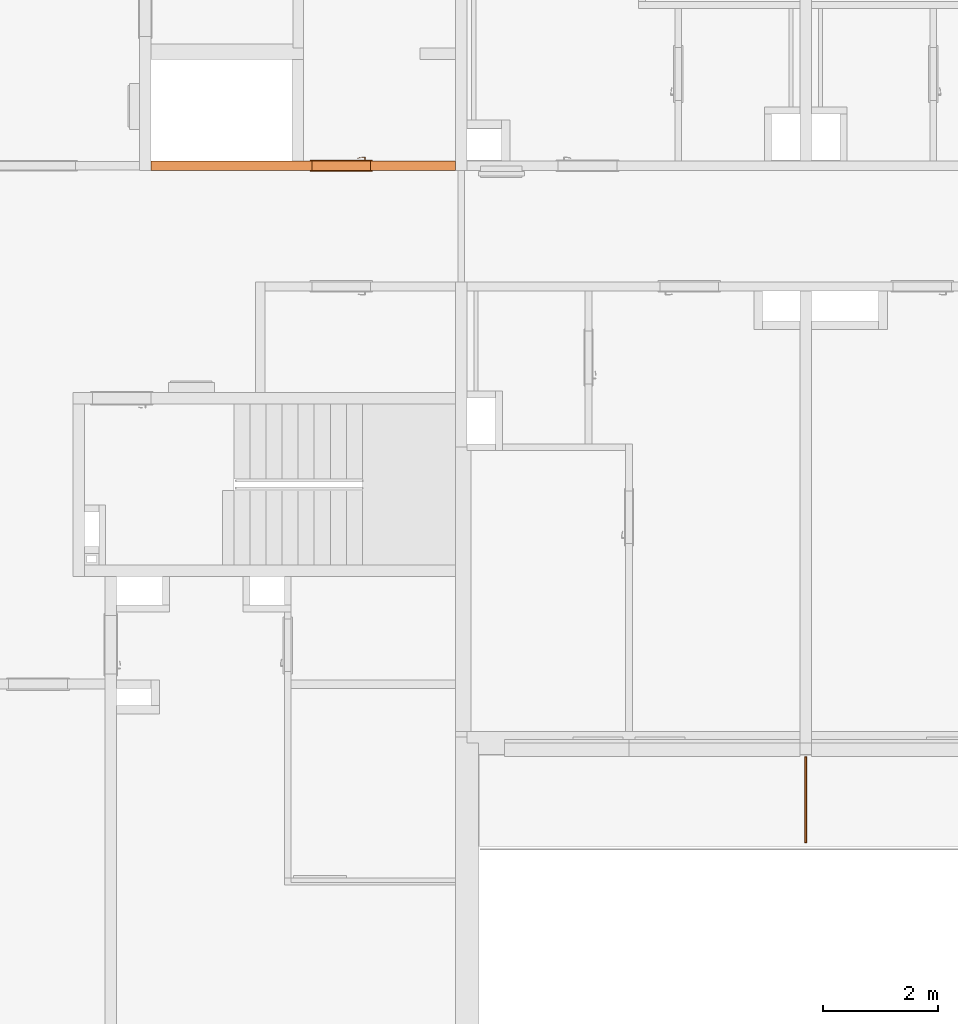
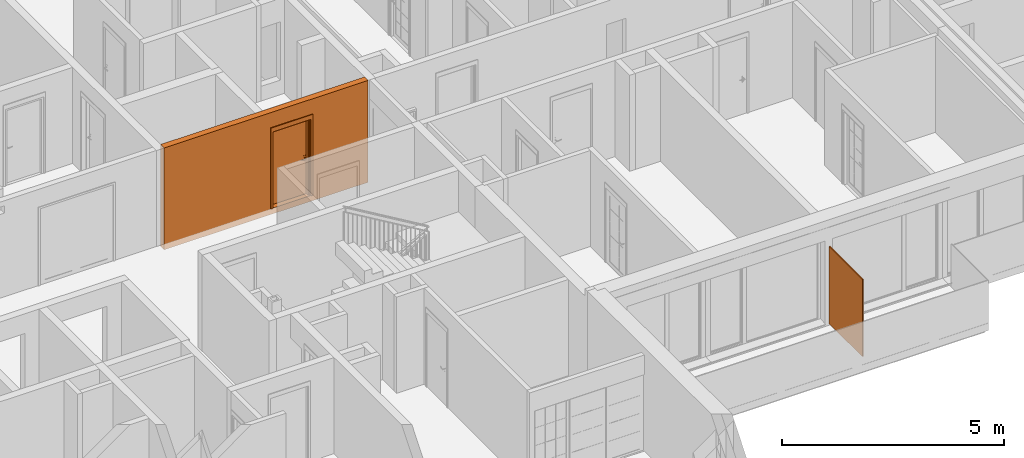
# One storey, part 19 of 66: 3 proxies, 1 opening.
"""IFC2X3 building model written with IfcOpenShell, lengths in millimetres."""

from ifc_helpers import new_model, entity, si_unit, converted_unit, derived_unit, money_unit, direction, frame, origin_with_axes, origin_2d_with_axis, place, context, subcontext, project, spatial, polyline, rectangle, outline, extrude, open_shell, faceted_brep, surface_model, source, transform, mapped, material, type_object, element, fill, save


model = new_model("IFC2X3")

# Units and contexts
model_context = context("Model", 3, precision=0.01, world=origin_with_axes(), true_north=direction((0.34421633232, 0.938890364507)))
body_context = subcontext(model_context, "Body", "Model", "MODEL_VIEW")
ifc_project = project(units=[si_unit("LENGTHUNIT", "METRE", prefix="MILLI"), si_unit("AREAUNIT", "SQUARE_METRE"), si_unit("VOLUMEUNIT", "CUBIC_METRE"), converted_unit("PLANEANGLEUNIT", "DEGREE", entity("IfcPlaneAngleMeasure", 0.0174532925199), si_unit("PLANEANGLEUNIT", "RADIAN"), dimensions=[0, 0, 0, 0, 0, 0, 0]), si_unit("SOLIDANGLEUNIT", "STERADIAN"), money_unit("USD"), converted_unit("TIMEUNIT", "Year", entity("IfcTimeMeasure", 31556926.0), si_unit("TIMEUNIT", "SECOND"), dimensions=[0, 0, 1, 0, 0, 0, 0]), si_unit("MASSUNIT", "GRAM", prefix="KILO"), si_unit("THERMODYNAMICTEMPERATUREUNIT", "DEGREE_CELSIUS"), si_unit("LUMINOUSINTENSITYUNIT", "LUMEN"), si_unit("ENERGYUNIT", "JOULE", prefix="MEGA"), derived_unit("THERMALCONDUCTANCEUNIT", [(si_unit("POWERUNIT", "WATT"), 1), (si_unit("LENGTHUNIT", "METRE"), -1), (si_unit("THERMODYNAMICTEMPERATUREUNIT", "KELVIN"), -1)]), derived_unit("SPECIFICHEATCAPACITYUNIT", [(si_unit("ENERGYUNIT", "JOULE"), 1), (si_unit("MASSUNIT", "GRAM", prefix="KILO"), -1), (si_unit("THERMODYNAMICTEMPERATUREUNIT", "KELVIN"), -1)]), derived_unit("MASSDENSITYUNIT", [(si_unit("MASSUNIT", "GRAM", prefix="KILO"), 1), (si_unit("VOLUMEUNIT", "CUBIC_METRE"), -1)])], contexts=[model_context])

# Site, building, storey
site_placement = place(None, origin_with_axes())
site = spatial("IfcSite", under=ifc_project, at=site_placement, Name="USTRONIE MORSKIE", CompositionType="ELEMENT")
building_placement = place(site_placement, origin_with_axes())
building = spatial("IfcBuilding", under=site, at=building_placement, Name="Budynek", CompositionType="ELEMENT")
storey_placement = place(building_placement, frame((0.0, 0.0, 10000.0), z_axis=(0.0, 0.0, 1.0), x_axis=(1.0, 0.0, 0.0)))
storey = spatial("IfcBuildingStorey", under=building, at=storey_placement, Name="PIĘTRO 3", CompositionType="ELEMENT", Elevation=10000.0)

# Proxies, opening
ifc_material_1 = material(Name="Beton konstrukcyjny B25")
building_element_proxy_type_1 = type_object("IfcBuildingElementProxyType", Name="Beton konstrukcyjny B25 160", PredefinedType="NOTDEFINED")
proxy_1_placement = place(storey_placement, frame((396317.911316, 736851.199036, -160.0), z_axis=(0.0, 0.0, 1.0), x_axis=(-1.0, 0.0, 0.0)))
proxy_1 = element("IfcBuildingElementProxy", 1, at=proxy_1_placement, inside=storey, type_object=building_element_proxy_type_1, material=ifc_material_1, Name="SW-01", context=body_context, shape_type="Brep", body=[
    faceted_brep([(5399.99039729, -80.0, 2800.0), (99.9999021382, -80.0, 2800.0), (99.9999021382, -80.0, 0.0), (5399.99039729, -80.0, 0.0), (5399.99039729, 80.0, 2800.0), (100.000097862, 80.0, 2800.0), (100.000097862, 80.0, 0.0), (5399.99039729, 80.0, 0.0)], [[[0, 1, 2, 3]], [[4, 5, 1, 0]], [[2, 1, 5, 6]], [[2, 6, 7, 3]], [[7, 4, 0, 3]], [[6, 5, 4, 7]]]),
])
opening_placement = place(proxy_1_placement, frame((2089.99039729, 0.0, 160.0), z_axis=(0.0, 0.0, 1.0), x_axis=(1.0, 0.0, 0.0)))
opening = element("IfcOpeningElement", 2, at=opening_placement, cuts=proxy_1, Name="Dw.2", context=body_context, shape_type="SweptSolid", body=[
    extrude(rectangle(XDim=1020.0, YDim=2120.0, at=origin_2d_with_axis()), frame((0.0, 160.0, 1060.0), z_axis=(0.0, 1.0, 0.0), x_axis=(1.0, 0.0, 0.0)), (0.0, 0.0, -1.0), 480.0),
    extrude(rectangle(XDim=1094.0, YDim=2227.0, at=origin_2d_with_axis()), frame((0.0, 79.9999999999, 1113.5), z_axis=(0.0, 1.0, 0.0), x_axis=(1.0, 0.0, 0.0)), (0.0, 0.0, 1.0), 160.0),
    extrude(rectangle(XDim=1094.0, YDim=2227.0, at=origin_2d_with_axis()), frame((0.0, -80.0, 1113.5), z_axis=(0.0, -1.0, 0.0), x_axis=(1.0, 0.0, 0.0)), (0.0, 0.0, 1.0), 160.0),
])
building_element_proxy_type_2 = type_object("IfcBuildingElementProxyType", Name="Drzwi 23", PredefinedType="NOTDEFINED")
shared_shape = source(origin_with_axes(), body_context, "Body", "SurfaceModel", [
    faceted_brep([(510.0, -115.0, 0.0), (510.0, -160.0, 0.0), (485.0, -160.0, 0.0), (485.0, -115.0, 0.0), (510.0, -115.0, 2120.0), (510.0, -160.0, 2120.0), (485.0, -160.0, 2095.0), (485.0, -115.0, 2095.0)], [[[0, 1, 2, 3]], [[4, 5, 1, 0]], [[1, 5, 6, 2]], [[3, 2, 6, 7]], [[0, 3, 7, 4]], [[7, 6, 5, 4]]]),
    faceted_brep([(-510.0, -115.0, 2120.0), (-510.0, -160.0, 2120.0), (-485.0, -160.0, 2095.0), (-485.0, -115.0, 2095.0), (-510.0, -115.0, 0.0), (-510.0, -160.0, 0.0), (-485.0, -160.0, 0.0), (-485.0, -115.0, 0.0)], [[[0, 1, 2, 3]], [[4, 5, 1, 0]], [[1, 5, 6, 2]], [[3, 2, 6, 7]], [[0, 3, 7, 4]], [[7, 6, 5, 4]]]),
    faceted_brep([(485.0, -115.0, 2095.0), (485.0, -160.0, 2095.0), (-485.0, -160.0, 2095.0), (-485.0, -115.0, 2095.0), (510.0, -115.0, 2120.0), (510.0, -160.0, 2120.0), (-510.0, -160.0, 2120.0), (-510.0, -115.0, 2120.0)], [[[0, 1, 2, 3]], [[4, 5, 1, 0]], [[1, 5, 6, 2]], [[3, 2, 6, 7]], [[0, 3, 7, 4]], [[7, 6, 5, 4]]]),
    faceted_brep([(547.0, -179.0, 0.0), (497.0, -179.0, 0.0), (497.0, -160.0, 0.0), (547.0, -160.0, 0.0), (547.0, -179.0, 2227.0), (497.0, -179.0, 2107.0), (497.0, -160.0, 2107.0), (547.0, -160.0, 2227.0)], [[[0, 1, 2, 3]], [[0, 4, 5, 1]], [[1, 5, 6, 2]], [[3, 2, 6, 7]], [[4, 0, 3, 7]], [[5, 4, 7, 6]]]),
    faceted_brep([(-547.0, -179.0, 2227.0), (-497.0, -179.0, 2107.0), (-497.0, -160.0, 2107.0), (-547.0, -160.0, 2227.0), (-547.0, -179.0, 0.0), (-497.0, -179.0, 0.0), (-497.0, -160.0, 0.0), (-547.0, -160.0, 0.0)], [[[0, 1, 2, 3]], [[0, 4, 5, 1]], [[1, 5, 6, 2]], [[3, 2, 6, 7]], [[4, 0, 3, 7]], [[5, 4, 7, 6]]]),
    faceted_brep([(547.0, -179.0, 2227.0), (497.0, -179.0, 2107.0), (497.0, -160.0, 2107.0), (547.0, -160.0, 2227.0), (-547.0, -179.0, 2227.0), (-497.0, -179.0, 2107.0), (-497.0, -160.0, 2107.0), (-547.0, -160.0, 2227.0)], [[[0, 1, 2, 3]], [[0, 4, 5, 1]], [[1, 5, 6, 2]], [[3, 2, 6, 7]], [[4, 0, 3, 7]], [[5, 4, 7, 6]]]),
    faceted_brep([(547.0, 19.0, 0.0), (547.0, 0.0, 0.0), (497.0, 0.0, 0.0), (497.0, 19.0, 0.0), (547.0, 19.0, 2227.0), (547.0, 0.0, 2227.0), (497.0, 0.0, 2107.0), (497.0, 19.0, 2107.0)], [[[0, 1, 2, 3]], [[4, 5, 1, 0]], [[1, 5, 6, 2]], [[3, 2, 6, 7]], [[0, 3, 7, 4]], [[7, 6, 5, 4]]]),
    faceted_brep([(-547.0, 19.0, 2227.0), (-547.0, 0.0, 2227.0), (-497.0, 0.0, 2107.0), (-497.0, 19.0, 2107.0), (-547.0, 19.0, 0.0), (-547.0, 0.0, 0.0), (-497.0, 0.0, 0.0), (-497.0, 19.0, 0.0)], [[[0, 1, 2, 3]], [[4, 5, 1, 0]], [[1, 5, 6, 2]], [[3, 2, 6, 7]], [[0, 3, 7, 4]], [[7, 6, 5, 4]]]),
    faceted_brep([(547.0, 19.0, 2227.0), (547.0, 0.0, 2227.0), (497.0, 0.0, 2107.0), (497.0, 19.0, 2107.0), (-547.0, 19.0, 2227.0), (-547.0, 0.0, 2227.0), (-497.0, 0.0, 2107.0), (-497.0, 19.0, 2107.0)], [[[0, 1, 2, 3]], [[4, 5, 1, 0]], [[1, 5, 6, 2]], [[3, 2, 6, 7]], [[0, 3, 7, 4]], [[7, 6, 5, 4]]]),
    faceted_brep([(450.0, -40.0, 0.0), (450.0, -115.0, 0.0), (450.0, -115.0, 2050.0), (450.0, -40.0, 2050.0), (462.0, -40.0, 0.0), (462.0, 0.0, 0.0), (510.0, 0.0, 0.0), (510.0, -115.0, 0.0), (510.0, -115.0, 2050.0), (462.0, -40.0, 2050.0), (510.0, 0.0, 2050.0), (462.0, 0.0, 2050.0)], [[[0, 1, 2, 3]], [[4, 5, 6, 7, 1, 0]], [[1, 7, 8, 2]], [[9, 3, 2, 8, 10, 11]], [[9, 4, 0, 3]], [[11, 5, 4, 9]], [[11, 10, 6, 5]], [[6, 10, 8, 7]]]),
    faceted_brep([(-462.0, -40.0, 2050.0), (-462.0, 0.0, 2050.0), (-510.0, 0.0, 2050.0), (-510.0, -115.0, 2050.0), (-450.0, -115.0, 2050.0), (-450.0, -40.0, 2050.0), (-462.0, -40.0, 0.0), (-462.0, 0.0, 0.0), (-510.0, 0.0, 0.0), (-510.0, -115.0, 0.0), (-450.0, -115.0, 0.0), (-450.0, -40.0, 0.0)], [[[0, 1, 2, 3, 4, 5]], [[0, 6, 7, 1]], [[7, 8, 2, 1]], [[2, 8, 9, 3]], [[3, 9, 10, 4]], [[5, 4, 10, 11]], [[5, 11, 6, 0]], [[6, 11, 10, 9, 8, 7]]]),
    faceted_brep([(462.0, 0.0, 2062.0), (-462.0, 0.0, 2062.0), (-462.0, 0.0, 2050.0), (-510.0, 0.0, 2050.0), (-510.0, 0.0, 2120.0), (510.0, 0.0, 2120.0), (510.0, 0.0, 2050.0), (462.0, 0.0, 2050.0), (462.0, -40.0, 2062.0), (-462.0, -40.0, 2062.0), (-462.0, -40.0, 2050.0), (-450.0, -40.0, 2050.0), (-450.0, -115.0, 2050.0), (-510.0, -115.0, 2050.0), (-510.0, -115.0, 2120.0), (510.0, -115.0, 2120.0), (510.0, -115.0, 2050.0), (462.0, -40.0, 2050.0), (450.0, -115.0, 2050.0), (450.0, -40.0, 2050.0)], [[[0, 1, 2, 3, 4, 5, 6, 7]], [[0, 8, 9, 1]], [[1, 9, 10, 2]], [[10, 11, 12, 13, 3, 2]], [[4, 3, 13, 14]], [[5, 4, 14, 15]], [[6, 5, 15, 16]], [[17, 7, 6, 16, 18, 19]], [[7, 17, 8, 0]], [[10, 9, 8, 17, 19, 11]], [[19, 18, 12, 11]], [[12, 18, 16, 15, 14, 13]]]),
    faceted_brep([(440.5, -40.0, 1060.0), (383.5, -40.0, 1060.0), (383.5, -43.0, 1060.0), (440.5, -43.0, 1060.0), (440.5, -40.0, 870.0), (383.5, -40.0, 870.0), (383.5, -43.0, 870.0), (440.5, -43.0, 870.0)], [[[0, 1, 2, 3]], [[0, 4, 5, 1]], [[1, 5, 6, 2]], [[3, 2, 6, 7]], [[4, 0, 3, 7]], [[5, 4, 7, 6]]]),
    faceted_brep([(412.0, -104.0, 990.0), (417.0, -104.0, 991.339745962), (417.0, -111.0, 991.339745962), (412.0, -111.0, 990.0), (387.0, -104.0, 990.0), (387.0, -104.0, 1010.0), (412.0, -104.0, 1010.0), (417.0, -104.0, 1008.66025404), (420.660254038, -104.0, 1005.0), (422.0, -104.0, 1000.0), (420.660254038, -104.0, 995.0), (420.660254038, -111.0, 995.0), (422.0, -111.0, 1000.0), (420.660254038, -111.0, 1005.0), (417.0, -111.0, 1008.66025404), (412.0, -111.0, 1010.0), (387.0, -111.0, 1010.0), (387.0, -111.0, 990.0)], [[[0, 1, 2, 3]], [[0, 4, 5, 6, 7, 8, 9, 10, 1]], [[1, 10, 11, 2]], [[3, 2, 11, 12, 13, 14, 15, 16, 17]], [[4, 0, 3, 17]], [[5, 4, 17, 16]], [[6, 5, 16, 15]], [[7, 6, 15, 14]], [[8, 7, 14, 13]], [[9, 8, 13, 12]], [[10, 9, 12, 11]]]),
    surface_model("IfcShellBasedSurfaceModel", [(387.0, -104.0, 1010.0), (373.901717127, -104.0, 1009.60730092), (373.596090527, -111.0, 1009.60730092), (387.0, -104.0, 990.0), (373.901717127, -104.0, 990.392699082), (346.890283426, -108.663544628, 1008.82190275), (387.0, -111.0, 1010.0), (387.0, -111.0, 990.0), (347.804837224, -101.716818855, 991.178097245), (347.804837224, -101.716818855, 1008.82190275), (346.890283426, -108.663544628, 991.178097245), (373.596090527, -111.0, 990.392699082), (322.006256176, -97.1678329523, 991.963495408), (322.006256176, -97.1678329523, 1008.03650459), (320.489735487, -104.008415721, 1008.03650459), (320.489735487, -104.008415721, 991.963495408), (296.702316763, -90.3876628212, 992.748893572), (296.702316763, -90.3876628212, 1007.25110643), (294.59537082, -97.0700416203, 1007.25110643), (294.59537082, -97.0700416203, 992.748893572), (288.829442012, -87.5221707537, 993.0), (288.829442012, -87.5221707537, 1007.0), (286.538795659, -94.1376880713, 1007.0), (286.538795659, -94.1376880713, 993.0)], [open_shell([[[0, 1, 2]], [[0, 3, 4, 1]], [[1, 5, 2]], [[0, 2, 6]], [[4, 3, 7]], [[1, 4, 8, 9]], [[1, 9, 5]], [[2, 5, 10, 11]], [[6, 2, 11, 7]], [[4, 7, 11]], [[8, 4, 11]], [[9, 8, 12, 13]], [[9, 14, 5]], [[5, 14, 15, 10]], [[8, 11, 10]], [[12, 8, 10]], [[13, 12, 16, 17]], [[9, 13, 14]], [[14, 18, 19, 15]], [[12, 10, 15]], [[16, 12, 15]], [[17, 16, 20, 21]], [[13, 17, 18]], [[13, 18, 14]], [[18, 22, 23, 19]], [[16, 15, 19]], [[20, 16, 19]], [[21, 20, 23, 22]], [[17, 21, 22]], [[17, 22, 18]], [[20, 19, 23]]])]),
    faceted_brep([(401.607695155, -53.0, 994.0), (400.0, -53.0, 1000.0), (399.0, -43.0, 1000.0), (400.741669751, -43.0, 993.5), (406.0, -53.0, 989.607695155), (412.0, -53.0, 988.0), (418.0, -53.0, 989.607695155), (422.392304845, -53.0, 994.0), (424.0, -53.0, 1000.0), (422.392304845, -53.0, 1006.0), (418.0, -53.0, 1010.39230485), (412.0, -53.0, 1012.0), (406.0, -53.0, 1010.39230485), (401.607695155, -53.0, 1006.0), (400.741669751, -43.0, 1006.5), (405.5, -43.0, 1011.25833025), (412.0, -43.0, 1013.0), (418.5, -43.0, 1011.25833025), (423.258330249, -43.0, 1006.5), (425.0, -43.0, 1000.0), (423.258330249, -43.0, 993.5), (418.5, -43.0, 988.741669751), (412.0, -43.0, 987.0), (405.5, -43.0, 988.741669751)], [[[0, 1, 2, 3]], [[1, 0, 4, 5, 6, 7, 8, 9, 10, 11, 12, 13]], [[1, 13, 14, 2]], [[2, 14, 15, 16, 17, 18, 19, 20, 21, 22, 23, 3]], [[4, 0, 3, 23]], [[5, 4, 23, 22]], [[6, 5, 22, 21]], [[7, 6, 21, 20]], [[8, 7, 20, 19]], [[9, 8, 19, 18]], [[10, 9, 18, 17]], [[11, 10, 17, 16]], [[12, 11, 16, 15]], [[13, 12, 15, 14]]]),
    faceted_brep([(394.679491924, -47.0, 895.0), (392.0, -47.0, 905.0), (390.0, -43.0, 905.0), (392.947441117, -43.0, 894.0), (402.0, -47.0, 887.679491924), (412.0, -47.0, 885.0), (422.0, -47.0, 887.679491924), (429.320508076, -47.0, 895.0), (432.0, -47.0, 905.0), (429.320508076, -47.0, 915.0), (422.0, -47.0, 922.320508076), (412.0, -47.0, 925.0), (402.0, -47.0, 922.320508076), (394.679491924, -47.0, 915.0), (392.947441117, -43.0, 916.0), (401.0, -43.0, 924.052558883), (412.0, -43.0, 927.0), (423.0, -43.0, 924.052558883), (431.052558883, -43.0, 916.0), (434.0, -43.0, 905.0), (431.052558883, -43.0, 894.0), (423.0, -43.0, 885.947441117), (412.0, -43.0, 883.0), (401.0, -43.0, 885.947441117)], [[[0, 1, 2, 3]], [[1, 0, 4, 5, 6, 7, 8, 9, 10, 11, 12, 13]], [[1, 13, 14, 2]], [[2, 14, 15, 16, 17, 18, 19, 20, 21, 22, 23, 3]], [[4, 0, 3, 23]], [[5, 4, 23, 22]], [[6, 5, 22, 21]], [[7, 6, 21, 20]], [[8, 7, 20, 19]], [[9, 8, 19, 18]], [[10, 9, 18, 17]], [[11, 10, 17, 16]], [[12, 11, 16, 15]], [[13, 12, 15, 14]]]),
    faceted_brep([(407.050252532, -49.0, 909.050252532), (405.0, -49.0, 914.0), (404.0, -47.0, 914.0), (406.343145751, -47.0, 908.343145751), (412.0, -49.0, 907.0), (416.949747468, -49.0, 909.050252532), (419.0, -49.0, 914.0), (416.949747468, -49.0, 918.949747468), (412.0, -49.0, 921.0), (407.050252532, -49.0, 918.949747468), (406.343145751, -47.0, 919.656854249), (412.0, -47.0, 922.0), (417.656854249, -47.0, 919.656854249), (420.0, -47.0, 914.0), (417.656854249, -47.0, 908.343145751), (412.0, -47.0, 906.0)], [[[0, 1, 2, 3]], [[1, 0, 4, 5, 6, 7, 8, 9]], [[1, 9, 10, 2]], [[2, 10, 11, 12, 13, 14, 15, 3]], [[4, 0, 3, 15]], [[5, 4, 15, 14]], [[6, 5, 14, 13]], [[7, 6, 13, 12]], [[8, 7, 12, 11]], [[9, 8, 11, 10]]]),
    faceted_brep([(412.0, -53.0, 1010.0), (407.0, -53.0, 1008.66025404), (407.0, -104.0, 1008.66025404), (412.0, -104.0, 1010.0), (417.0, -53.0, 1008.66025404), (420.660254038, -53.0, 1005.0), (422.0, -53.0, 1000.0), (420.660254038, -53.0, 995.0), (417.0, -53.0, 991.339745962), (412.0, -53.0, 990.0), (407.0, -53.0, 991.339745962), (403.339745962, -53.0, 995.0), (402.0, -53.0, 1000.0), (403.339745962, -53.0, 1005.0), (403.339745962, -104.0, 1005.0), (402.0, -104.0, 1000.0), (403.339745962, -104.0, 995.0), (407.0, -104.0, 991.339745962), (412.0, -104.0, 990.0), (417.0, -104.0, 991.339745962), (420.660254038, -104.0, 995.0), (422.0, -104.0, 1000.0), (420.660254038, -104.0, 1005.0), (417.0, -104.0, 1008.66025404)], [[[0, 1, 2, 3]], [[0, 4, 5, 6, 7, 8, 9, 10, 11, 12, 13, 1]], [[1, 13, 14, 2]], [[3, 2, 14, 15, 16, 17, 18, 19, 20, 21, 22, 23]], [[4, 0, 3, 23]], [[5, 4, 23, 22]], [[6, 5, 22, 21]], [[7, 6, 21, 20]], [[8, 7, 20, 19]], [[9, 8, 19, 18]], [[10, 9, 18, 17]], [[11, 10, 17, 16]], [[12, 11, 16, 15]], [[13, 12, 15, 14]]]),
    faceted_brep([(440.5, 0.0, 1060.0), (440.5, 3.0, 1060.0), (383.5, 3.0, 1060.0), (383.5, 0.0, 1060.0), (440.5, 0.0, 870.0), (440.5, 3.0, 870.0), (383.5, 3.0, 870.0), (383.5, 0.0, 870.0)], [[[0, 1, 2, 3]], [[4, 5, 1, 0]], [[1, 5, 6, 2]], [[3, 2, 6, 7]], [[0, 3, 7, 4]], [[7, 6, 5, 4]]]),
    faceted_brep([(412.0, 64.0, 990.0), (412.0, 71.0, 990.0), (417.0, 71.0, 991.339745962), (417.0, 64.0, 991.339745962), (387.0, 64.0, 990.0), (387.0, 71.0, 990.0), (387.0, 71.0, 1010.0), (412.0, 71.0, 1010.0), (417.0, 71.0, 1008.66025404), (420.660254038, 71.0, 1005.0), (422.0, 71.0, 1000.0), (420.660254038, 71.0, 995.0), (420.660254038, 64.0, 995.0), (422.0, 64.0, 1000.0), (420.660254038, 64.0, 1005.0), (417.0, 64.0, 1008.66025404), (412.0, 64.0, 1010.0), (387.0, 64.0, 1010.0)], [[[0, 1, 2, 3]], [[4, 5, 1, 0]], [[1, 5, 6, 7, 8, 9, 10, 11, 2]], [[3, 2, 11, 12]], [[0, 3, 12, 13, 14, 15, 16, 17, 4]], [[17, 6, 5, 4]], [[16, 7, 6, 17]], [[15, 8, 7, 16]], [[14, 9, 8, 15]], [[13, 10, 9, 14]], [[12, 11, 10, 13]]]),
    surface_model("IfcShellBasedSurfaceModel", [(387.0, 64.0, 1010.0), (373.596090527, 71.0, 1009.60730092), (373.901717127, 64.0, 1009.60730092), (387.0, 71.0, 1010.0), (346.890283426, 68.6635446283, 1008.82190275), (373.901717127, 64.0, 990.392699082), (387.0, 64.0, 990.0), (387.0, 71.0, 990.0), (373.596090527, 71.0, 990.392699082), (346.890283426, 68.6635446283, 991.178097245), (347.804837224, 61.716818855, 1008.82190275), (347.804837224, 61.716818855, 991.178097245), (320.489735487, 64.0084157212, 991.963495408), (320.489735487, 64.0084157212, 1008.03650459), (322.006256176, 57.1678329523, 1008.03650459), (322.006256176, 57.1678329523, 991.963495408), (294.59537082, 57.0700416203, 992.748893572), (294.59537082, 57.0700416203, 1007.25110643), (296.702316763, 50.3876628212, 1007.25110643), (296.702316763, 50.3876628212, 992.748893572), (286.538795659, 54.1376880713, 993.0), (286.538795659, 54.1376880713, 1007.0), (288.829442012, 47.5221707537, 1007.0), (288.829442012, 47.5221707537, 993.0)], [open_shell([[[0, 1, 2]], [[0, 3, 1]], [[2, 1, 4]], [[0, 2, 5, 6]], [[3, 7, 8, 1]], [[1, 8, 9, 4]], [[2, 4, 10]], [[2, 10, 11, 5]], [[5, 7, 6]], [[5, 8, 7]], [[11, 9, 8]], [[4, 9, 12, 13]], [[10, 4, 13]], [[10, 14, 15, 11]], [[11, 8, 5]], [[15, 9, 11]], [[15, 12, 9]], [[13, 12, 16, 17]], [[10, 13, 14]], [[14, 18, 19, 15]], [[19, 12, 15]], [[19, 16, 12]], [[17, 16, 20, 21]], [[14, 13, 17]], [[14, 17, 18]], [[18, 22, 23, 19]], [[23, 16, 19]], [[23, 20, 16]], [[22, 21, 20, 23]], [[18, 17, 21]], [[18, 21, 22]]])]),
    faceted_brep([(401.607695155, 13.0, 994.0), (400.741669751, 3.0, 993.5), (399.0, 3.0, 1000.0), (400.0, 13.0, 1000.0), (406.0, 13.0, 989.607695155), (405.5, 3.0, 988.741669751), (412.0, 3.0, 987.0), (418.5, 3.0, 988.741669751), (423.258330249, 3.0, 993.5), (425.0, 3.0, 1000.0), (423.258330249, 3.0, 1006.5), (418.5, 3.0, 1011.25833025), (412.0, 3.0, 1013.0), (405.5, 3.0, 1011.25833025), (400.741669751, 3.0, 1006.5), (401.607695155, 13.0, 1006.0), (406.0, 13.0, 1010.39230485), (412.0, 13.0, 1012.0), (418.0, 13.0, 1010.39230485), (422.392304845, 13.0, 1006.0), (424.0, 13.0, 1000.0), (422.392304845, 13.0, 994.0), (418.0, 13.0, 989.607695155), (412.0, 13.0, 988.0)], [[[0, 1, 2, 3]], [[4, 5, 1, 0]], [[2, 1, 5, 6, 7, 8, 9, 10, 11, 12, 13, 14]], [[3, 2, 14, 15]], [[3, 15, 16, 17, 18, 19, 20, 21, 22, 23, 4, 0]], [[23, 6, 5, 4]], [[22, 7, 6, 23]], [[21, 8, 7, 22]], [[20, 9, 8, 21]], [[19, 10, 9, 20]], [[18, 11, 10, 19]], [[17, 12, 11, 18]], [[16, 13, 12, 17]], [[15, 14, 13, 16]]]),
    faceted_brep([(394.679491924, 7.0, 895.0), (392.947441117, 3.0, 894.0), (390.0, 3.0, 905.0), (392.0, 7.0, 905.0), (402.0, 7.0, 887.679491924), (401.0, 3.0, 885.947441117), (412.0, 3.0, 883.0), (423.0, 3.0, 885.947441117), (431.052558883, 3.0, 894.0), (434.0, 3.0, 905.0), (431.052558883, 3.0, 916.0), (423.0, 3.0, 924.052558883), (412.0, 3.0, 927.0), (401.0, 3.0, 924.052558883), (392.947441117, 3.0, 916.0), (394.679491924, 7.0, 915.0), (402.0, 7.0, 922.320508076), (412.0, 7.0, 925.0), (422.0, 7.0, 922.320508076), (429.320508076, 7.0, 915.0), (432.0, 7.0, 905.0), (429.320508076, 7.0, 895.0), (422.0, 7.0, 887.679491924), (412.0, 7.0, 885.0)], [[[0, 1, 2, 3]], [[4, 5, 1, 0]], [[2, 1, 5, 6, 7, 8, 9, 10, 11, 12, 13, 14]], [[3, 2, 14, 15]], [[3, 15, 16, 17, 18, 19, 20, 21, 22, 23, 4, 0]], [[23, 6, 5, 4]], [[22, 7, 6, 23]], [[21, 8, 7, 22]], [[20, 9, 8, 21]], [[19, 10, 9, 20]], [[18, 11, 10, 19]], [[17, 12, 11, 18]], [[16, 13, 12, 17]], [[15, 14, 13, 16]]]),
    faceted_brep([(407.050252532, 9.0, 909.050252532), (406.343145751, 7.0, 908.343145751), (404.0, 7.0, 914.0), (405.0, 9.0, 914.0), (412.0, 9.0, 907.0), (412.0, 7.0, 906.0), (417.656854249, 7.0, 908.343145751), (420.0, 7.0, 914.0), (417.656854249, 7.0, 919.656854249), (412.0, 7.0, 922.0), (406.343145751, 7.0, 919.656854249), (407.050252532, 9.0, 918.949747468), (412.0, 9.0, 921.0), (416.949747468, 9.0, 918.949747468), (419.0, 9.0, 914.0), (416.949747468, 9.0, 909.050252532)], [[[0, 1, 2, 3]], [[4, 5, 1, 0]], [[2, 1, 5, 6, 7, 8, 9, 10]], [[3, 2, 10, 11]], [[3, 11, 12, 13, 14, 15, 4, 0]], [[15, 6, 5, 4]], [[14, 7, 6, 15]], [[13, 8, 7, 14]], [[12, 9, 8, 13]], [[11, 10, 9, 12]]]),
    faceted_brep([(412.0, 13.0, 1010.0), (412.0, 64.0, 1010.0), (407.0, 64.0, 1008.66025404), (407.0, 13.0, 1008.66025404), (417.0, 13.0, 1008.66025404), (417.0, 64.0, 1008.66025404), (420.660254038, 64.0, 1005.0), (422.0, 64.0, 1000.0), (420.660254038, 64.0, 995.0), (417.0, 64.0, 991.339745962), (412.0, 64.0, 990.0), (407.0, 64.0, 991.339745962), (403.339745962, 64.0, 995.0), (402.0, 64.0, 1000.0), (403.339745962, 64.0, 1005.0), (403.339745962, 13.0, 1005.0), (402.0, 13.0, 1000.0), (403.339745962, 13.0, 995.0), (407.0, 13.0, 991.339745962), (412.0, 13.0, 990.0), (417.0, 13.0, 991.339745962), (420.660254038, 13.0, 995.0), (422.0, 13.0, 1000.0), (420.660254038, 13.0, 1005.0)], [[[0, 1, 2, 3]], [[4, 5, 1, 0]], [[1, 5, 6, 7, 8, 9, 10, 11, 12, 13, 14, 2]], [[3, 2, 14, 15]], [[0, 3, 15, 16, 17, 18, 19, 20, 21, 22, 23, 4]], [[23, 6, 5, 4]], [[22, 7, 6, 23]], [[21, 8, 7, 22]], [[20, 9, 8, 21]], [[19, 10, 9, 20]], [[18, 11, 10, 19]], [[17, 12, 11, 18]], [[16, 13, 12, 17]], [[15, 14, 13, 16]]]),
    faceted_brep([(-462.0, 0.0, 0.0), (462.0, 0.0, 0.0), (462.0, -40.0, 0.0), (-462.0, -40.0, 0.0), (-462.0, 0.0, 2062.0), (462.0, 0.0, 2062.0), (462.0, -40.0, 2062.0), (-462.0, -40.0, 2062.0)], [[[0, 1, 2, 3]], [[0, 4, 5, 1]], [[1, 5, 6, 2]], [[3, 2, 6, 7]], [[4, 0, 3, 7]], [[5, 4, 7, 6]]]),
])
proxy_2_placement = place(opening_placement, frame((450.0, 0.0, 0.0), z_axis=(0.0, 0.0, 1.0), x_axis=(-1.0, 0.0, 0.0)))
proxy_2 = element("IfcBuildingElementProxy", 3, at=proxy_2_placement, inside=storey, type_object=building_element_proxy_type_2, Name="Dw.2", context=body_context, shape_type="MappedRepresentation", body=[
    mapped(shared_shape, transform((450.0, 80.0, 0.0))),
])
fill(opening, proxy_2)

# Proxy
ifc_material_2 = material(Name="Woda")
building_element_proxy_type_3 = type_object("IfcBuildingElementProxyType", Name="Woda 30", PredefinedType="NOTDEFINED")
proxy_3_placement = place(storey_placement, frame((402317.920919, 726561.18631, 20.0), z_axis=(0.0, 0.0, 1.0), x_axis=(0.0, -1.0, 0.0)))
element("IfcBuildingElementProxy", 4, at=proxy_3_placement, inside=storey, type_object=building_element_proxy_type_3, material=ifc_material_2, Name="Œciana-007", context=body_context, shape_type="SweptSolid", body=[
    extrude(outline(polyline([(0.0, -15.0), (1500.0, -15.0), (1500.0, 15.0), (0.0, 15.0), (0.0, -15.0)])), origin_with_axes(), (0.0, 0.0, 1.0), 2120.0),
])

save(model, "model.ifc")
